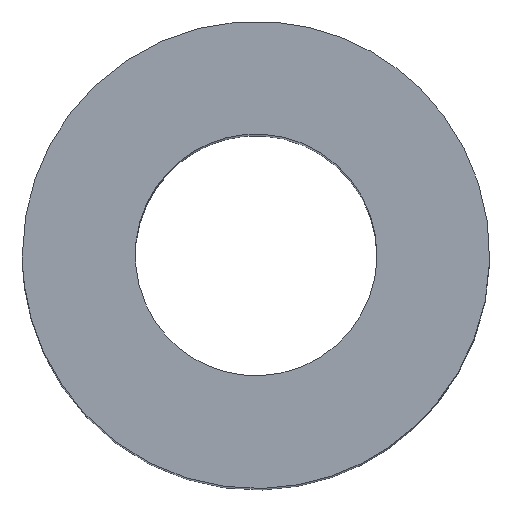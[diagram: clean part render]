
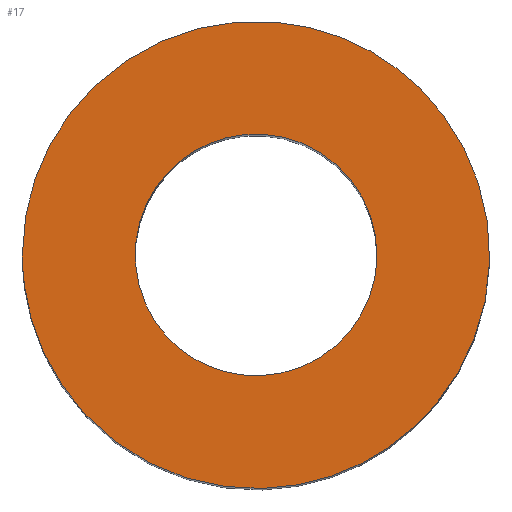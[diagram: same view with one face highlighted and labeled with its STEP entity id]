
A CAD part, top view. The second image highlights one B-rep face of the part: STEP entity #17.
In plain terms, the highlighted free-form (B-spline) face has degree [1, 1] with [2, 2] control points.
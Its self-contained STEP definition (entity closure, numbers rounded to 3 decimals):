
#17 = ADVANCED_FACE('',(#18,#32),#46,.F.);
#18 = FACE_BOUND('',#19,.T.);
#19 = EDGE_LOOP('',(#20));
#20 = ORIENTED_EDGE('',*,*,#21,.F.);
#21 = EDGE_CURVE('',#22,#22,#24,.T.);
#22 = VERTEX_POINT('',#23);
#23 = CARTESIAN_POINT('',(1.125,0.,8.));
#24 = ( BOUNDED_CURVE() B_SPLINE_CURVE(2,(#25,#26,#27,#28,#29,#30,#31),
.UNSPECIFIED.,.T.,.F.) B_SPLINE_CURVE_WITH_KNOTS((1,2,2,2,2,1),(
    -2.094,0.,2.094,4.189,6.283,
8.378),.UNSPECIFIED.) CURVE() GEOMETRIC_REPRESENTATION_ITEM() 
RATIONAL_B_SPLINE_CURVE((1.,0.5,1.,0.5,1.,0.5,1.)) REPRESENTATION_ITEM(
  '') );
#25 = CARTESIAN_POINT('',(1.125,0.,8.));
#26 = CARTESIAN_POINT('',(1.125,1.949,8.));
#27 = CARTESIAN_POINT('',(-0.563,0.974,8.));
#28 = CARTESIAN_POINT('',(-2.25,0.,8.));
#29 = CARTESIAN_POINT('',(-0.563,-0.974,8.));
#30 = CARTESIAN_POINT('',(1.125,-1.949,8.));
#31 = CARTESIAN_POINT('',(1.125,0.,8.));
#32 = FACE_BOUND('',#33,.T.);
#33 = EDGE_LOOP('',(#34));
#34 = ORIENTED_EDGE('',*,*,#35,.F.);
#35 = EDGE_CURVE('',#36,#36,#38,.T.);
#36 = VERTEX_POINT('',#37);
#37 = CARTESIAN_POINT('',(-2.175,0.,8.));
#38 = ( BOUNDED_CURVE() B_SPLINE_CURVE(2,(#39,#40,#41,#42,#43,#44,#45),
.UNSPECIFIED.,.T.,.F.) B_SPLINE_CURVE_WITH_KNOTS((1,2,2,2,2,1),(
    -2.094,0.,2.094,4.189,6.283,
8.378),.UNSPECIFIED.) CURVE() GEOMETRIC_REPRESENTATION_ITEM() 
RATIONAL_B_SPLINE_CURVE((1.,0.5,1.,0.5,1.,0.5,1.)) REPRESENTATION_ITEM(
  '') );
#39 = CARTESIAN_POINT('',(-2.175,0.,8.));
#40 = CARTESIAN_POINT('',(-2.175,3.767,8.));
#41 = CARTESIAN_POINT('',(1.088,1.884,8.));
#42 = CARTESIAN_POINT('',(4.35,0.,8.));
#43 = CARTESIAN_POINT('',(1.088,-1.884,8.));
#44 = CARTESIAN_POINT('',(-2.175,-3.767,8.));
#45 = CARTESIAN_POINT('',(-2.175,0.,8.));
#46 = B_SPLINE_SURFACE_WITH_KNOTS('',1,1,(
    (#47,#48)
    ,(#49,#50
    )),.UNSPECIFIED.,.F.,.F.,.F.,(2,2),(2,2),(-2.175,2.175),(-2.175,
    2.175),.PIECEWISE_BEZIER_KNOTS.);
#47 = CARTESIAN_POINT('',(2.175,-2.175,8.));
#48 = CARTESIAN_POINT('',(2.175,2.175,8.));
#49 = CARTESIAN_POINT('',(-2.175,-2.175,8.));
#50 = CARTESIAN_POINT('',(-2.175,2.175,8.));
